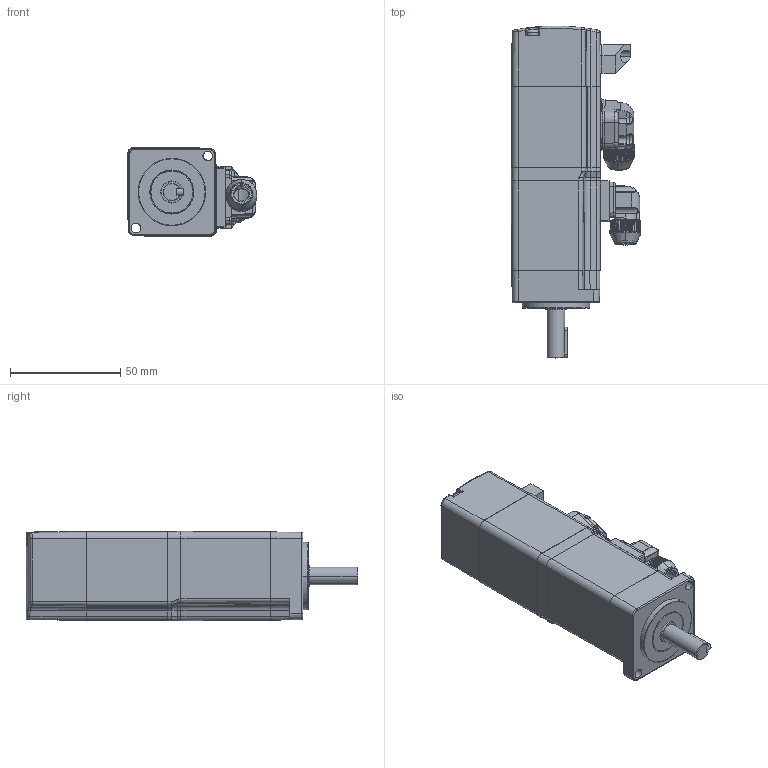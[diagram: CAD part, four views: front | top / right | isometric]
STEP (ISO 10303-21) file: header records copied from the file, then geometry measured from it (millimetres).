
FILE_DESCRIPTION((''),'2;1');
FILE_NAME('_40-100W-Z_ASM_ASM_ASM_ASM_ASM__ASM','2023-07-20T13:59:41',('Cyclone_Aero15X'),(''),'CREO PARAMETRIC BY PTC INC, 2019080','CREO PARAMETRIC BY PTC INC, 2019080','');
FILE_SCHEMA(('CONFIG_CONTROL_DESIGN','SHAPE_APPEARANCE_LAYERS_GROUPS'));
Products named in the file (22): PRT0016_1; 40-002_5_2; PRT0003_2; 40_5_2; PRT0029_1_2; PRT0032_1_2; PRT0034_1_2; ASM0010_ASM_3_ASM_ASM_ASM_ASM_A_ASM; PRT0005_2; PRT0006_2; PRT0007_2; ASM0004_ASM_ASM_ASM_ASM_ASM_ASM_ASM; ASM0003_ASM_ASM_ASM_ASM_ASM_ASM_ASM; PR40-4_8_2; PRT0017_1; KEY040_2; 40-100-Z-Y_ASM_1_ASM_ASM_ASM_AS_ASM; PRT0008_1; PRT0018_1; PRT0019_1; ASM0002_ASM_ASM_ASM_1_ASM_ASM; _40-100W-Z_ASM_ASM_ASM_ASM_ASM__ASM
Assembly tree (21 placements, depth 5):
  _40-100W-Z_ASM_ASM_ASM_ASM_ASM__ASM
    40-100-Z-Y_ASM_1_ASM_ASM_ASM_AS_ASM
      PRT0016_1
      40-002_5_2
      PRT0003_2
      40_5_2
      ASM0010_ASM_3_ASM_ASM_ASM_ASM_A_ASM
        PRT0029_1_2
        PRT0032_1_2
        PRT0034_1_2
      ASM0003_ASM_ASM_ASM_ASM_ASM_ASM_ASM
        ASM0004_ASM_ASM_ASM_ASM_ASM_ASM_ASM
          PRT0005_2
          PRT0006_2
          PRT0007_2
      PR40-4_8_2
      PRT0017_1
      KEY040_2
    PRT0008_1
    ASM0002_ASM_ASM_ASM_1_ASM_ASM
      PRT0018_1
      PRT0019_1
Bounding box: 58.75 x 150.39 x 40.53 mm (x, y, z)
Volume: 117513.4 mm3; surface area: 67179.1 mm2
Topology: 16 solids, 16 shells, 2645 faces, 7045 edges, 4393 vertices
Faces by surface type: plane 1069, cylinder 719, cone 403, bspline 236, torus 94, sphere 88, extrusion 36
Entity records: 109881 total; most frequent: CARTESIAN_POINT 46975, ORIENTED_EDGE 13880, DIRECTION 11629, EDGE_CURVE 6940, VERTEX_POINT 4385, AXIS2_PLACEMENT_3D 4119, VECTOR 3391, LINE 3355
